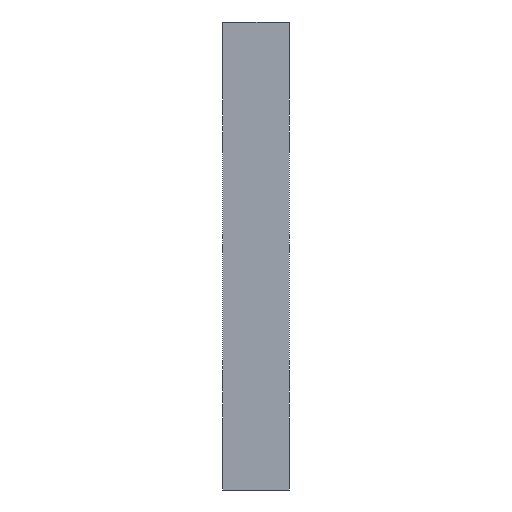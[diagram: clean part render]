
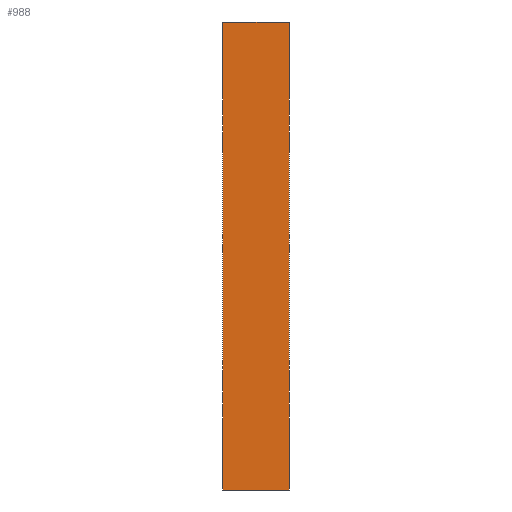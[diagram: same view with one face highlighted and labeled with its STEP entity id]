
A CAD part, left-side view. The second image highlights one B-rep face of the part: STEP entity #988.
In plain terms, the highlighted planar face has unit normal (-1, 0, 0).
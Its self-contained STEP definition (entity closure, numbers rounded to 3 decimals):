
#385=DIRECTION('',(0.,0.,-1.));
#386=VECTOR('',#385,35.);
#387=CARTESIAN_POINT('',(508.575,-664.904,17.5));
#388=LINE('',#387,#386);
#389=DIRECTION('',(0.,1.,0.));
#390=VECTOR('',#389,5.);
#391=CARTESIAN_POINT('',(508.575,-669.904,17.5));
#392=LINE('',#391,#390);
#393=DIRECTION('',(0.,0.,1.));
#394=VECTOR('',#393,35.);
#395=CARTESIAN_POINT('',(508.575,-669.904,-17.5));
#396=LINE('',#395,#394);
#397=DIRECTION('',(0.,-1.,0.));
#398=VECTOR('',#397,5.);
#399=CARTESIAN_POINT('',(508.575,-664.904,-17.5));
#400=LINE('',#399,#398);
#537=CARTESIAN_POINT('',(508.575,-664.904,17.5));
#538=CARTESIAN_POINT('',(508.575,-664.904,-17.5));
#539=VERTEX_POINT('',#537);
#540=VERTEX_POINT('',#538);
#541=CARTESIAN_POINT('',(508.575,-669.904,-17.5));
#542=CARTESIAN_POINT('',(508.575,-669.904,17.5));
#543=VERTEX_POINT('',#541);
#544=VERTEX_POINT('',#542);
#977=CARTESIAN_POINT('',(508.575,-669.904,0.));
#978=DIRECTION('',(-1.,0.,0.));
#979=DIRECTION('',(0.,0.,1.));
#980=AXIS2_PLACEMENT_3D('',#977,#978,#979);
#981=PLANE('',#980);
#982=ORIENTED_EDGE('',*,*,#717,.F.);
#983=ORIENTED_EDGE('',*,*,#836,.F.);
#984=ORIENTED_EDGE('',*,*,#856,.F.);
#985=ORIENTED_EDGE('',*,*,#969,.F.);
#986=EDGE_LOOP('',(#982,#983,#984,#985));
#987=FACE_OUTER_BOUND('',#986,.F.);
#988=ADVANCED_FACE('',(#987),#981,.T.);
#717=EDGE_CURVE('',#539,#540,#388,.T.);
#836=EDGE_CURVE('',#544,#539,#392,.T.);
#856=EDGE_CURVE('',#543,#544,#396,.T.);
#969=EDGE_CURVE('',#540,#543,#400,.T.);
